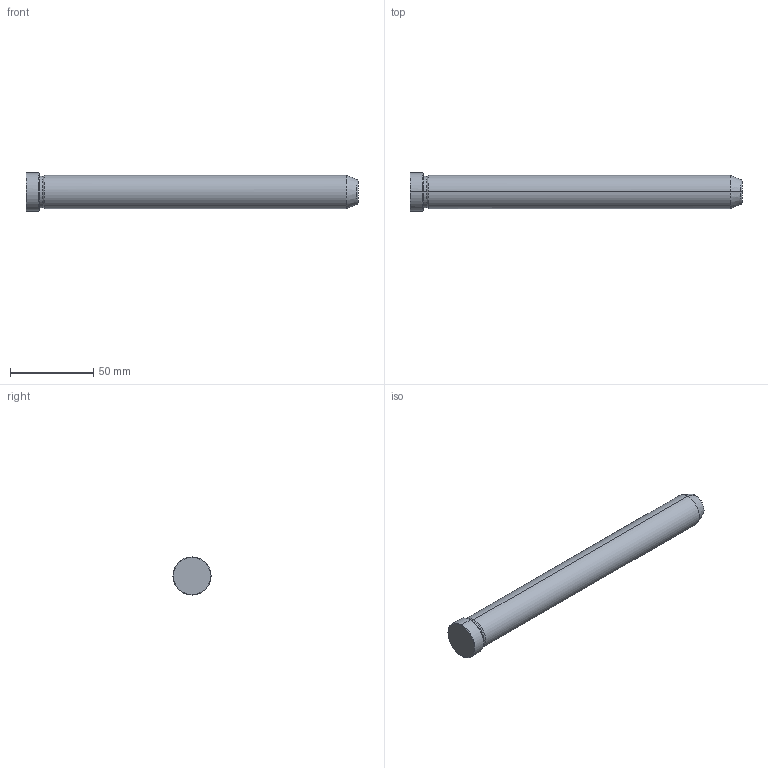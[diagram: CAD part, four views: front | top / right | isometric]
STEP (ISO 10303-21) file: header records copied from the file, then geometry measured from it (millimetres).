
FILE_DESCRIPTION(('CATIA V5 STEP Exchange'),'2;1');
FILE_NAME('C:\Users\Utente\Desktop\IO LAVORO\3D X SITO CF\X SITO\PLASTICA\549\549-20X200.stp','2021-12-11T09:49:53+00:00',('none'),('none'),'CATIA Version 5 Release 20 GA (IN-10)','CATIA V5 STEP AP203','none');
FILE_SCHEMA(('CONFIG_CONTROL_DESIGN'));
Length unit declared in the file: millimetre
Products named in the file (1): 549-20X200
Bounding box: 200 x 23 x 23 mm (x, y, z)
Volume: 62994.4 mm3; surface area: 13285.7 mm2
Topology: 1 solids, 1 shells, 19 faces, 56 edges, 40 vertices
Faces by surface type: cone 8, cylinder 6, plane 3, torus 2
Entity records: 736 total; most frequent: CARTESIAN_POINT 192, ORIENTED_EDGE 112, DIRECTION 86, EDGE_CURVE 56, AXIS2_PLACEMENT_3D 54, VERTEX_POINT 40, CIRCLE 34, EDGE_LOOP 20
